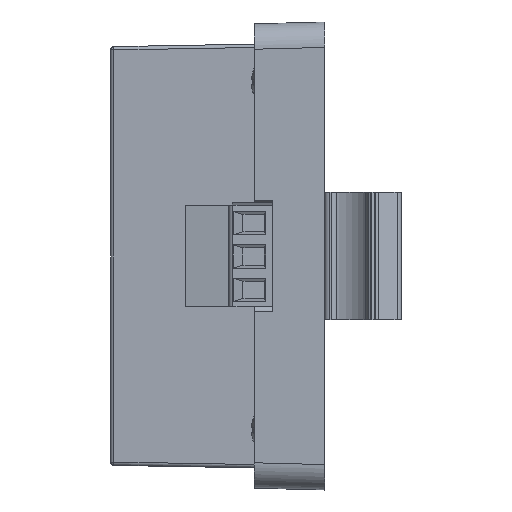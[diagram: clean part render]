
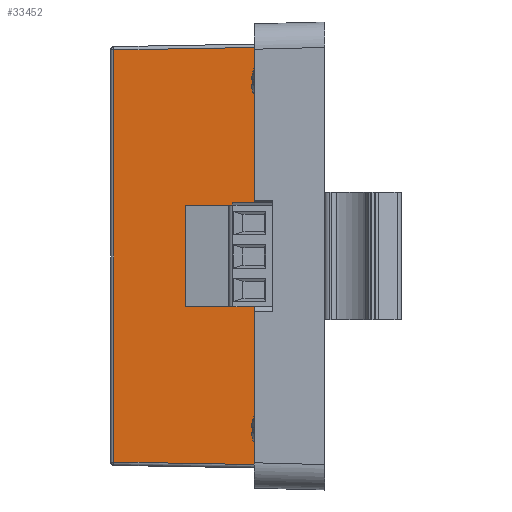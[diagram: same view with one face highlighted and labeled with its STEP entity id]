
A CAD part, left-side view. The second image highlights one B-rep face of the part: STEP entity #33452.
In plain terms, the highlighted planar face has unit normal (-1, 0.018, 0).
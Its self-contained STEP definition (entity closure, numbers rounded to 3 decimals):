
#701 = CARTESIAN_POINT ( 'NONE',  ( -42.797, -14.137, 44.75 ) ) ;
#6074 = LINE ( 'NONE', #19466, #27589 ) ;
#12849 = EDGE_CURVE ( 'NONE', #13894, #19237, #84225, .T. ) ;
#13894 = VERTEX_POINT ( 'NONE', #87365 ) ;
#14063 = VECTOR ( 'NONE', #24981, 1000. ) ;
#19237 = VERTEX_POINT ( 'NONE', #87682 ) ;
#19466 = CARTESIAN_POINT ( 'NONE',  ( -42.797, -14.128, 44.25 ) ) ;
#20229 = EDGE_CURVE ( 'NONE', #19237, #48561, #92189, .T. ) ;
#21181 = CARTESIAN_POINT ( 'NONE',  ( -42.797, -14.128, 44.25 ) ) ;
#23356 = EDGE_CURVE ( 'NONE', #48561, #83133, #75928, .T. ) ;
#24163 = ORIENTED_EDGE ( 'NONE', *, *, #23356, .T. ) ;
#24795 = ORIENTED_EDGE ( 'NONE', *, *, #30739, .F. ) ;
#24981 = DIRECTION ( 'NONE',  ( 0., 0., -1. ) ) ;
#27589 = VECTOR ( 'NONE', #36694, 1000. ) ;
#30739 = EDGE_CURVE ( 'NONE', #13894, #83133, #6074, .T. ) ;
#31304 = AXIS2_PLACEMENT_3D ( 'NONE', #21181, #51269, #74128 ) ;
#32681 = CARTESIAN_POINT ( 'NONE',  ( -42.369, 10.381, 45.178 ) ) ;
#33405 = ORIENTED_EDGE ( 'NONE', *, *, #20229, .T. ) ;
#33452 = ADVANCED_FACE ( 'NONE', ( #80532 ), #66691, .T. ) ;
#36694 = DIRECTION ( 'NONE',  ( 0., 0., -1. ) ) ;
#40159 = DIRECTION ( 'NONE',  ( 0.017, 1., -0.017 ) ) ;
#48561 = VERTEX_POINT ( 'NONE', #32681 ) ;
#51269 = DIRECTION ( 'NONE',  ( -1., 0.017, 0. ) ) ;
#53029 = DIRECTION ( 'NONE',  ( -0.017, -1., -0.017 ) ) ;
#57814 = VECTOR ( 'NONE', #40159, 1000. ) ;
#66691 = PLANE ( 'NONE',  #31304 ) ;
#70035 = CARTESIAN_POINT ( 'NONE',  ( -42.369, 10.381, 44.25 ) ) ;
#70370 = CARTESIAN_POINT ( 'NONE',  ( -42.778, -13.029, 107.231 ) ) ;
#74128 = DIRECTION ( 'NONE',  ( 0.017, 1., 0. ) ) ;
#75928 = LINE ( 'NONE', #701, #89746 ) ;
#80532 = FACE_OUTER_BOUND ( 'NONE', #91881, .T. ) ;
#83133 = VERTEX_POINT ( 'NONE', #95535 ) ;
#84225 = LINE ( 'NONE', #70370, #57814 ) ;
#87365 = CARTESIAN_POINT ( 'NONE',  ( -42.797, -14.128, 107.25 ) ) ;
#87682 = CARTESIAN_POINT ( 'NONE',  ( -42.369, 10.381, 106.822 ) ) ;
#89746 = VECTOR ( 'NONE', #53029, 1000. ) ;
#90314 = ORIENTED_EDGE ( 'NONE', *, *, #12849, .T. ) ;
#91881 = EDGE_LOOP ( 'NONE', ( #33405, #24163, #24795, #90314 ) ) ;
#92189 = LINE ( 'NONE', #70035, #14063 ) ;
#95535 = CARTESIAN_POINT ( 'NONE',  ( -42.797, -14.128, 44.75 ) ) ;
